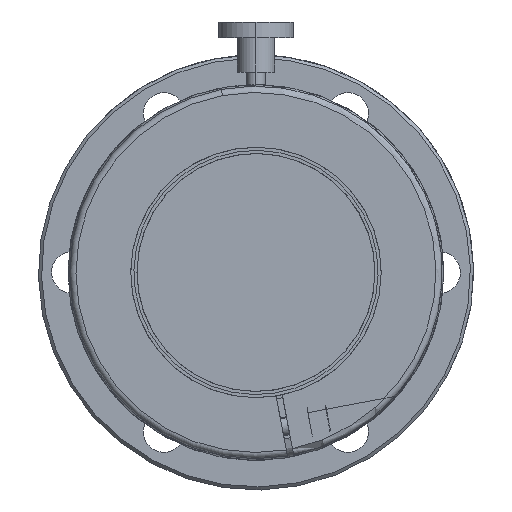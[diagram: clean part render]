
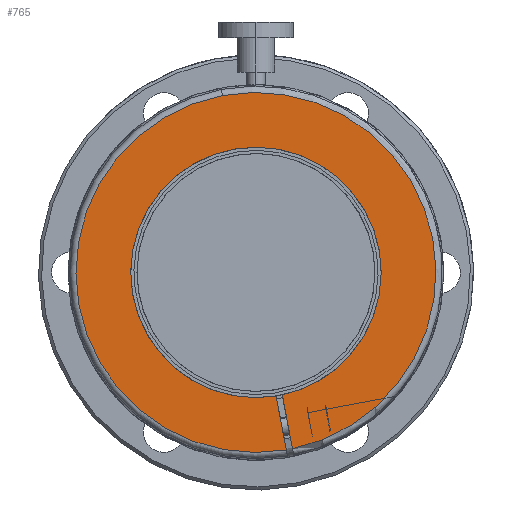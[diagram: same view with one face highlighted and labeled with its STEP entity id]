
A CAD part, front view. The second image highlights one B-rep face of the part: STEP entity #765.
In plain terms, the highlighted planar face has unit normal (0, -1, 0) as drawn and (-1, 0, 0) by its records, which use the part's own axes.
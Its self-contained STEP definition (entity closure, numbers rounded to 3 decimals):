
#161=CARTESIAN_POINT('Line Origine',(0.,24.37,-0.5)) ;
#165=CARTESIAN_POINT('Vertex',(0.,19.994,-0.5)) ;
#167=CARTESIAN_POINT('Vertex',(0.,28.746,-0.5)) ;
#245=CARTESIAN_POINT('Axis2P3D Location',(0.,0.,0.)) ;
#249=CARTESIAN_POINT('Vertex',(0.,17.552,-9.589)) ;
#319=CARTESIAN_POINT('Axis2P3D Location',(0.,0.,0.)) ;
#323=CARTESIAN_POINT('Vertex',(0.,-17.552,9.589)) ;
#376=CARTESIAN_POINT('Line Origine',(0.,24.37,0.5)) ;
#380=CARTESIAN_POINT('Vertex',(0.,28.746,0.5)) ;
#382=CARTESIAN_POINT('Vertex',(0.,19.994,0.5)) ;
#527=CARTESIAN_POINT('Axis2P3D Location',(0.,0.,0.)) ;
#531=CARTESIAN_POINT('Vertex',(0.,-28.75,0.)) ;
#613=CARTESIAN_POINT('Axis2P3D Location',(0.,0.,0.)) ;
#630=CARTESIAN_POINT('Axis2P3D Location',(0.,0.,0.)) ;
#751=CARTESIAN_POINT('Axis2P3D Location',(0.,0.,0.)) ;
#162=DIRECTION('Vector Direction',(0.,-1.,0.)) ;
#246=DIRECTION('Axis2P3D Direction',(-1.,0.,-0.)) ;
#320=DIRECTION('Axis2P3D Direction',(-1.,0.,-0.)) ;
#377=DIRECTION('Vector Direction',(0.,1.,0.)) ;
#528=DIRECTION('Axis2P3D Direction',(1.,-0.,0.)) ;
#614=DIRECTION('Axis2P3D Direction',(-1.,0.,-0.)) ;
#631=DIRECTION('Axis2P3D Direction',(1.,0.,-0.)) ;
#752=DIRECTION('Axis2P3D Direction',(1.,0.,0.)) ;
#753=DIRECTION('Axis2P3D XDirection',(0.,1.,0.)) ;
#247=AXIS2_PLACEMENT_3D('Circle Axis2P3D',#245,#246,$) ;
#321=AXIS2_PLACEMENT_3D('Circle Axis2P3D',#319,#320,$) ;
#529=AXIS2_PLACEMENT_3D('Circle Axis2P3D',#527,#528,$) ;
#615=AXIS2_PLACEMENT_3D('Circle Axis2P3D',#613,#614,$) ;
#632=AXIS2_PLACEMENT_3D('Circle Axis2P3D',#630,#631,$) ;
#754=AXIS2_PLACEMENT_3D('Plane Axis2P3D',#751,#752,#753) ;
#757=ORIENTED_EDGE('',*,*,#384,.T.) ;
#758=ORIENTED_EDGE('',*,*,#617,.T.) ;
#759=ORIENTED_EDGE('',*,*,#325,.T.) ;
#760=ORIENTED_EDGE('',*,*,#251,.T.) ;
#761=ORIENTED_EDGE('',*,*,#169,.T.) ;
#762=ORIENTED_EDGE('',*,*,#634,.F.) ;
#763=ORIENTED_EDGE('',*,*,#533,.F.) ;
#163=VECTOR('Line Direction',#162,1.) ;
#378=VECTOR('Line Direction',#377,1.) ;
#765=ADVANCED_FACE('Hauptk\X2\00F6\X0\rper',(#764),#755,.F.) ;
#248=CIRCLE('generated circle',#247,20.) ;
#322=CIRCLE('generated circle',#321,20.) ;
#530=CIRCLE('generated circle',#529,28.75) ;
#616=CIRCLE('generated circle',#615,20.) ;
#633=CIRCLE('generated circle',#632,28.75) ;
#169=EDGE_CURVE('',#166,#168,#164,.F.) ;
#251=EDGE_CURVE('',#250,#166,#248,.F.) ;
#325=EDGE_CURVE('',#324,#250,#322,.F.) ;
#384=EDGE_CURVE('',#381,#383,#379,.F.) ;
#533=EDGE_CURVE('',#381,#532,#530,.T.) ;
#617=EDGE_CURVE('',#383,#324,#616,.F.) ;
#634=EDGE_CURVE('',#532,#168,#633,.T.) ;
#756=EDGE_LOOP('',(#757,#758,#759,#760,#761,#762,#763)) ;
#764=FACE_OUTER_BOUND('',#756,.T.) ;
#164=LINE('Line',#161,#163) ;
#379=LINE('Line',#376,#378) ;
#755=PLANE('',#754) ;
#166=VERTEX_POINT('',#165) ;
#168=VERTEX_POINT('',#167) ;
#250=VERTEX_POINT('',#249) ;
#324=VERTEX_POINT('',#323) ;
#381=VERTEX_POINT('',#380) ;
#383=VERTEX_POINT('',#382) ;
#532=VERTEX_POINT('',#531) ;
